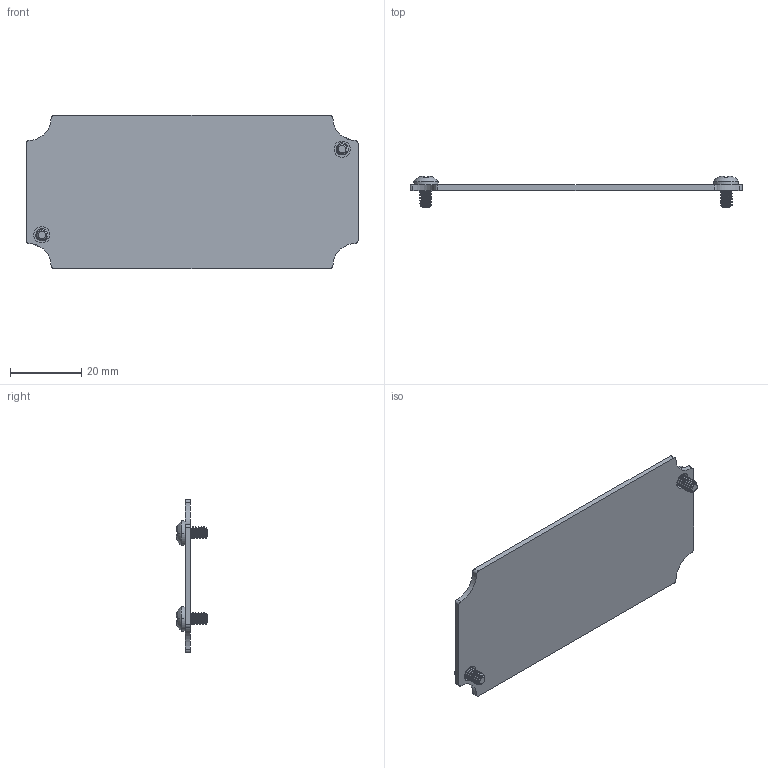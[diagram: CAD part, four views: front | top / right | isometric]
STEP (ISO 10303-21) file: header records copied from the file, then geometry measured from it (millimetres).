
FILE_DESCRIPTION (( 'STEP AP214' ), '1' );
FILE_NAME ('AN-20K.step', '2026-09-17T19:29:46', ( '' ), ( '' ), 'SwSTEP 2.0', 'SolidWorks 2026', '' );
FILE_SCHEMA (( 'AUTOMOTIVE_DESIGN' ));
Length unit declared in the file: inch
Products named in the file (3): AN-20-P_DEFAULT; SCREWS-050; AN-20K
Assembly tree (3 placements, depth 2):
  AN-20K
    AN-20-P_DEFAULT
    SCREWS-050  x2
Bounding box: 92.9 x 8.8 x 42.9 mm (x, y, z)
Volume: 5988.1 mm3; surface area: 8415.9 mm2
Topology: 3 solids, 3 shells, 700 faces, 1698 edges, 1002 vertices
Faces by surface type: bspline 368, cylinder 172, plane 64, sphere 48, cone 40, torus 8
Entity records: 17372 total; most frequent: CARTESIAN_POINT 10059, ORIENTED_EDGE 1778, DIRECTION 1041, EDGE_CURVE 889, VERTEX_POINT 529, B_SPLINE_CURVE_WITH_KNOTS 415, AXIS2_PLACEMENT_3D 380, EDGE_LOOP 370
